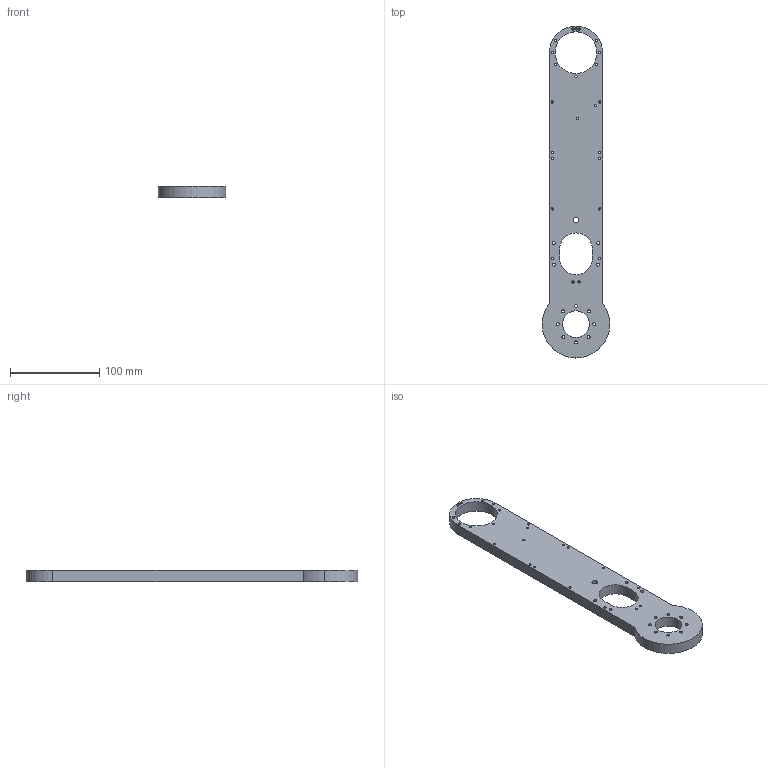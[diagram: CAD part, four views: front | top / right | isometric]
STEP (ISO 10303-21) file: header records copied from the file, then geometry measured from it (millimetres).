
FILE_DESCRIPTION (( 'STEP AP203' ), '1' );
FILE_NAME ('J2 arm.STEP', '2017-08-02T23:10:36', ( '' ), ( '' ), 'SwSTEP 2.0', 'SolidWorks 2016', '' );
FILE_SCHEMA (( 'CONFIG_CONTROL_DESIGN' ));
Length unit declared in the file: millimetre
Products named in the file (1): J2 arm
Bounding box: 76 x 373 x 12.7 mm (x, y, z)
Volume: 229729.1 mm3; surface area: 55847.5 mm2
Topology: 1 solids, 1 shells, 93 faces, 270 edges, 180 vertices
Faces by surface type: cylinder 86, plane 7
Entity records: 3413 total; most frequent: DIRECTION 630, CARTESIAN_POINT 544, ORIENTED_EDGE 540, EDGE_CURVE 270, AXIS2_PLACEMENT_3D 266, VERTEX_POINT 180, EDGE_LOOP 174, CIRCLE 172
